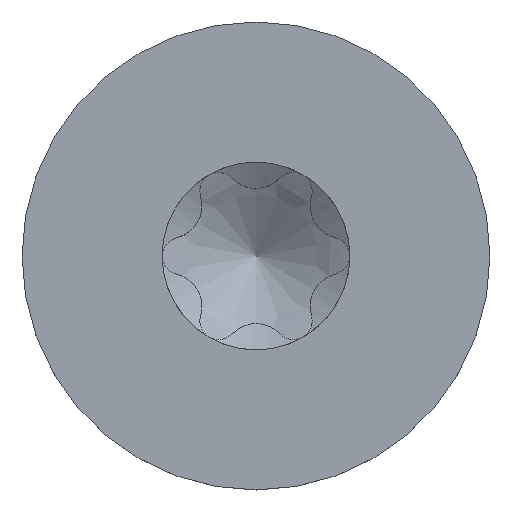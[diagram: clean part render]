
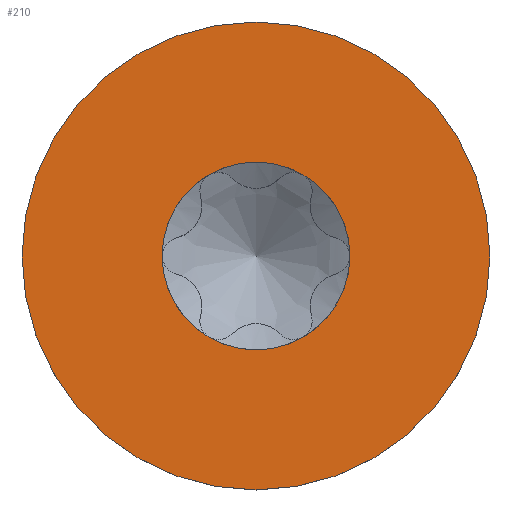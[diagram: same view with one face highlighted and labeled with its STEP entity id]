
A CAD part, top view. The second image highlights one B-rep face of the part: STEP entity #210.
In plain terms, the highlighted planar face has unit normal (0, 0, 1).
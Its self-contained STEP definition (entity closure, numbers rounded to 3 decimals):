
#167=PLANE('',#1026);
#174=FACE_BOUND('',#336,.T.);
#175=FACE_BOUND('',#337,.T.);
#210=ADVANCED_FACE('',(#174,#175),#167,.F.);
#336=EDGE_LOOP('',(#526));
#337=EDGE_LOOP('',(#527));
#526=ORIENTED_EDGE('',*,*,#894,.F.);
#527=ORIENTED_EDGE('',*,*,#895,.F.);
#801=VERTEX_POINT('',#2111);
#802=VERTEX_POINT('',#2113);
#894=EDGE_CURVE('',#801,#801,#1006,.T.);
#895=EDGE_CURVE('',#802,#802,#1007,.T.);
#1006=CIRCLE('',#1024,2.81);
#1007=CIRCLE('',#1025,7.);
#1024=AXIS2_PLACEMENT_3D('',#2110,#1074,#1075);
#1025=AXIS2_PLACEMENT_3D('',#2112,#1076,#1077);
#1026=AXIS2_PLACEMENT_3D('',#2114,#1078,#1079);
#1074=DIRECTION('',(0.,0.,1.));
#1075=DIRECTION('',(-1.,0.,0.));
#1076=DIRECTION('',(0.,0.,-1.));
#1077=DIRECTION('',(-1.,0.,0.));
#1078=DIRECTION('',(0.,0.,-1.));
#1079=DIRECTION('',(-1.,0.,0.));
#2110=CARTESIAN_POINT('',(0.,0.,5.16));
#2111=CARTESIAN_POINT('',(-2.81,0.,5.16));
#2112=CARTESIAN_POINT('',(0.,0.,5.16));
#2113=CARTESIAN_POINT('',(-7.,0.,5.16));
#2114=CARTESIAN_POINT('',(0.,0.,5.16));
